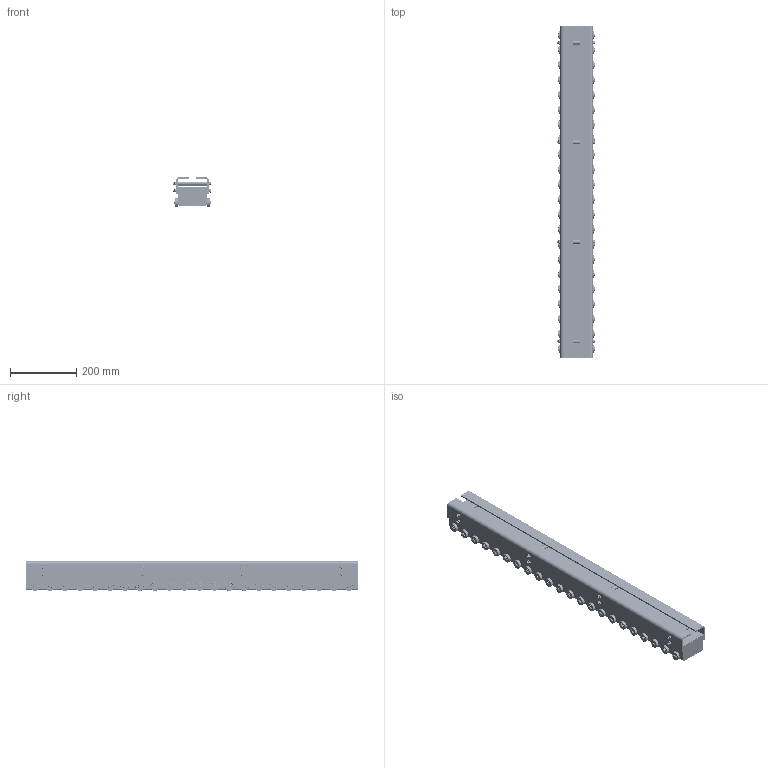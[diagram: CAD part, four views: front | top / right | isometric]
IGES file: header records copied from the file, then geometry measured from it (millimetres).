
Global section: file name: SPC-RSPO-085Wx087Hx1000L; native system: unknown; preprocessor: unknown; author: unknown; organization: unknown; date: 20230404.104434; units: millimetre
Bounding box: 114.7 x 1000 x 89.98 mm (x, y, z)
Volume: 1754052 mm3; surface area: 1370923.6 mm2
Topology: 706 solids, 750 shells, 4193 faces, 11794 edges, 7946 vertices
Faces by surface type: bspline 4193
